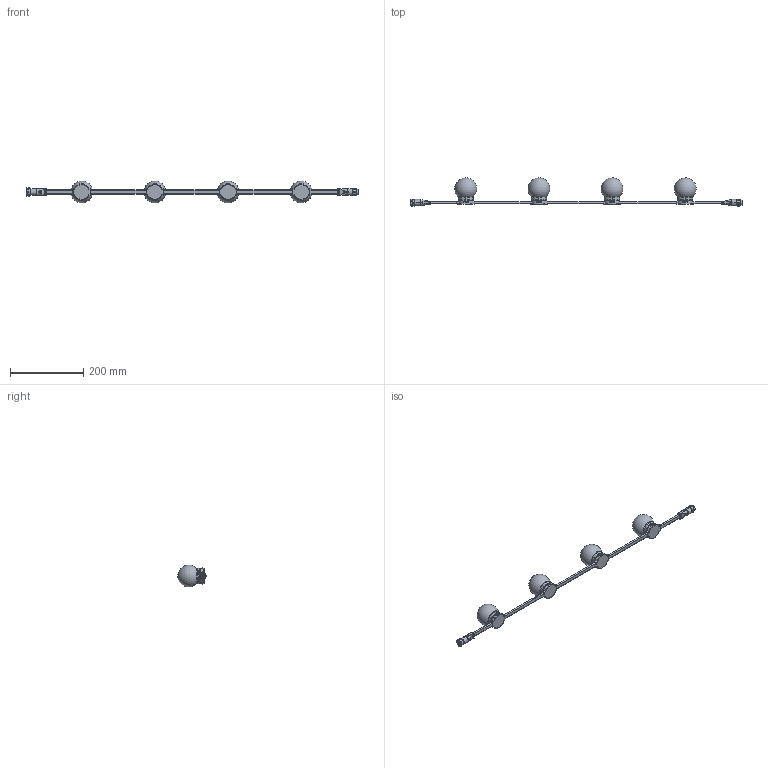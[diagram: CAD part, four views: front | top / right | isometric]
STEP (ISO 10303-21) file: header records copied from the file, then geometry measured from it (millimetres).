
FILE_DESCRIPTION (( 'STEP AP214' ), '1' );
FILE_NAME ('DiGi XT3 & 6 - Globe.STEP', '2025-11-13T13:06:24', ( '' ), ( '' ), 'SwSTEP 2.0', 'SolidWorks 2025', '' );
FILE_SCHEMA (( 'AUTOMOTIVE_DESIGN' ));
Length unit declared in the file: millimetre
Products named in the file (6): DiGi Module XT3 & 6 - Cover - Globe; Part9^DiGi XT3 & 6; M16 5p Flat mold - Female; DiGi XT3 & 6 - Globe; DiGi Module XT3 & 6 - Body_XT3 RGBW; M16 5p Flat mold - Male
Assembly tree (11 placements, depth 2):
  DiGi XT3 & 6 - Globe
    DiGi Module XT3 & 6 - Body_XT3 RGBW  x4
    Part9^DiGi XT3 & 6
    M16 5p Flat mold - Female
    M16 5p Flat mold - Male
    DiGi Module XT3 & 6 - Cover - Globe  x4
Bounding box: 907.71 x 77.51 x 59.87 mm (x, y, z)
Volume: 578472 mm3; surface area: 104963.6 mm2
Topology: 31 solids, 31 shells, 2547 faces, 5974 edges, 3456 vertices
Faces by surface type: bspline 1064, plane 581, cylinder 561, cone 208, sphere 82, torus 51
Full cylindrical faces by diameter (mm): 9.2 x1, 11.1 x1, 11.8 x1, 14.25 x1, 14.8 x1, 15.2 x1, 31.6 x8, 42 x4
Entity records: 93105 total; most frequent: CARTESIAN_POINT 52757, ORIENTED_EDGE 6034, DIRECTION 4322, EDGE_CURVE 3017, VERTEX_POINT 1807, AXIS2_PLACEMENT_3D 1704, EDGE_LOOP 1392, UNCERTAINTY_MEASURE_WITH_UNIT 1330
